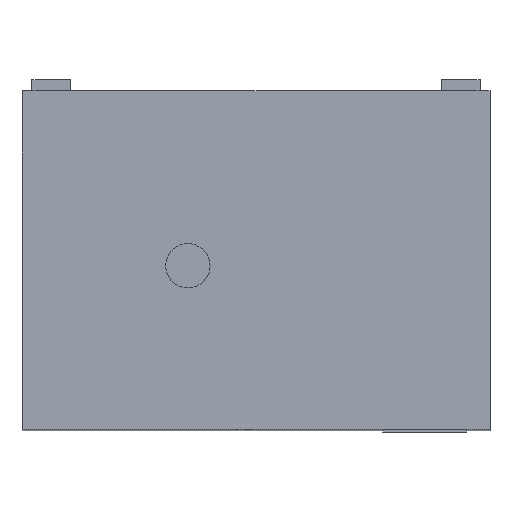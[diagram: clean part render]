
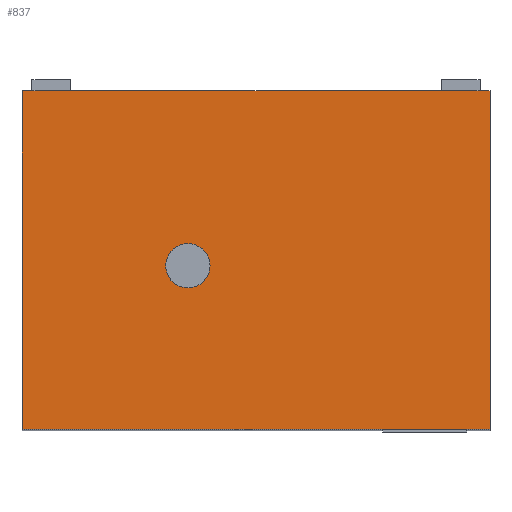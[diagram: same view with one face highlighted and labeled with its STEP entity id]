
A CAD part, top view. The second image highlights one B-rep face of the part: STEP entity #837.
In plain terms, the highlighted planar face has unit normal (0, 0, 1).
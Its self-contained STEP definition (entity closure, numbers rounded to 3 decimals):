
#71=LINE('',#1253,#159);
#75=LINE('',#1267,#163);
#92=LINE('',#1303,#180);
#93=LINE('',#1304,#181);
#94=LINE('',#1305,#182);
#109=LINE('',#1350,#197);
#110=LINE('',#1353,#198);
#111=LINE('',#1354,#199);
#159=VECTOR('',#1020,1000.);
#163=VECTOR('',#1034,1000.);
#180=VECTOR('',#1067,1000.);
#181=VECTOR('',#1068,1000.);
#182=VECTOR('',#1069,1000.);
#197=VECTOR('',#1114,1000.);
#198=VECTOR('',#1115,1000.);
#199=VECTOR('',#1116,1000.);
#371=ORIENTED_EDGE('',*,*,#509,.T.);
#372=ORIENTED_EDGE('',*,*,#510,.F.);
#373=ORIENTED_EDGE('',*,*,#511,.F.);
#374=ORIENTED_EDGE('',*,*,#490,.F.);
#375=ORIENTED_EDGE('',*,*,#470,.F.);
#376=ORIENTED_EDGE('',*,*,#489,.F.);
#377=ORIENTED_EDGE('',*,*,#464,.F.);
#378=ORIENTED_EDGE('',*,*,#488,.F.);
#379=ORIENTED_EDGE('',*,*,#512,.F.);
#464=EDGE_CURVE('',#557,#555,#71,.T.);
#470=EDGE_CURVE('',#560,#562,#75,.T.);
#488=EDGE_CURVE('',#572,#557,#92,.T.);
#489=EDGE_CURVE('',#555,#560,#93,.T.);
#490=EDGE_CURVE('',#562,#573,#94,.T.);
#509=EDGE_CURVE('',#587,#587,#609,.T.);
#510=EDGE_CURVE('',#588,#589,#109,.T.);
#511=EDGE_CURVE('',#573,#588,#110,.T.);
#512=EDGE_CURVE('',#589,#572,#111,.T.);
#555=VERTEX_POINT('',#1246);
#557=VERTEX_POINT('',#1254);
#560=VERTEX_POINT('',#1265);
#562=VERTEX_POINT('',#1268);
#572=VERTEX_POINT('',#1302);
#573=VERTEX_POINT('',#1306);
#587=VERTEX_POINT('',#1349);
#588=VERTEX_POINT('',#1351);
#589=VERTEX_POINT('',#1352);
#609=CIRCLE('',#912,20.);
#667=EDGE_LOOP('',(#371));
#668=EDGE_LOOP('',(#372,#373,#374,#375,#376,#377,#378,#379));
#739=FACE_BOUND('',#667,.T.);
#740=FACE_BOUND('',#668,.T.);
#791=PLANE('',#911);
#837=ADVANCED_FACE('',(#739,#740),#791,.T.);
#911=AXIS2_PLACEMENT_3D('',#1347,#1110,#1111);
#912=AXIS2_PLACEMENT_3D('',#1348,#1112,#1113);
#1020=DIRECTION('',(1.,0.,0.));
#1034=DIRECTION('',(1.,0.,0.));
#1067=DIRECTION('',(1.,0.,0.));
#1068=DIRECTION('',(1.,0.,0.));
#1069=DIRECTION('',(1.,0.,0.));
#1110=DIRECTION('',(0.,0.,1.));
#1111=DIRECTION('',(1.,0.,0.));
#1112=DIRECTION('',(0.,0.,-1.));
#1113=DIRECTION('',(1.,0.,0.));
#1114=DIRECTION('',(-1.,0.,0.));
#1115=DIRECTION('',(0.,-1.,0.));
#1116=DIRECTION('',(0.,1.,0.));
#1246=CARTESIAN_POINT('',(-167.5,152.5,675.));
#1253=CARTESIAN_POINT('',(0.,152.5,675.));
#1254=CARTESIAN_POINT('',(-202.5,152.5,675.));
#1265=CARTESIAN_POINT('',(167.5,152.5,675.));
#1267=CARTESIAN_POINT('',(0.,152.5,675.));
#1268=CARTESIAN_POINT('',(202.5,152.5,675.));
#1302=CARTESIAN_POINT('',(-211.5,152.5,675.));
#1303=CARTESIAN_POINT('',(0.,152.5,675.));
#1304=CARTESIAN_POINT('',(0.,152.5,675.));
#1305=CARTESIAN_POINT('',(0.,152.5,675.));
#1306=CARTESIAN_POINT('',(211.5,152.5,675.));
#1347=CARTESIAN_POINT('',(0.,-0.5,675.));
#1348=CARTESIAN_POINT('',(-61.563,-5.593,675.));
#1349=CARTESIAN_POINT('',(-41.563,-5.593,675.));
#1350=CARTESIAN_POINT('',(0.,-153.5,675.));
#1351=CARTESIAN_POINT('',(211.5,-153.5,675.));
#1352=CARTESIAN_POINT('',(-211.5,-153.5,675.));
#1353=CARTESIAN_POINT('',(211.5,-0.5,675.));
#1354=CARTESIAN_POINT('',(-211.5,-0.5,675.));
